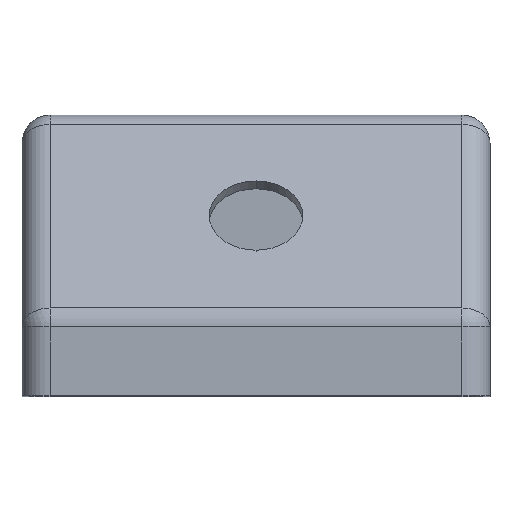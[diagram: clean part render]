
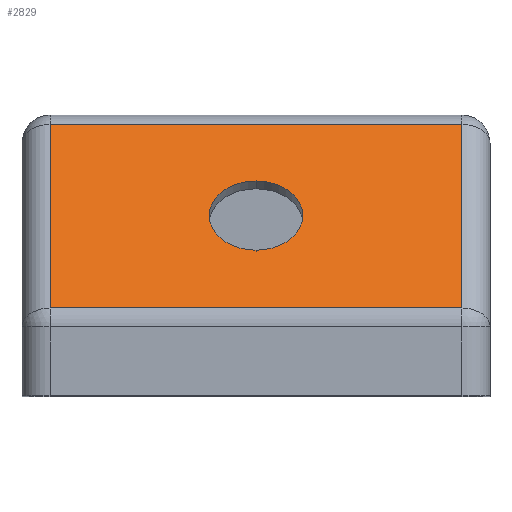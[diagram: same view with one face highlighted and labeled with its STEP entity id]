
A CAD part, top view. The second image highlights one B-rep face of the part: STEP entity #2829.
In plain terms, the highlighted planar face has unit normal (0, 0.672, 0.741).
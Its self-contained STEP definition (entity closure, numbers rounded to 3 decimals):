
#80 = ORIENTED_EDGE ( 'NONE', *, *, #1207, .T. ) ;
#95 = DIRECTION ( 'NONE',  ( -1., 0., 0. ) ) ;
#186 = CARTESIAN_POINT ( 'NONE',  ( 0., 45.907, 134.782 ) ) ;
#383 = DIRECTION ( 'NONE',  ( 0., -0.741, 0.672 ) ) ;
#405 = DIRECTION ( 'NONE',  ( 0., -0.741, 0.672 ) ) ;
#414 = CARTESIAN_POINT ( 'NONE',  ( -44., 17., 161. ) ) ;
#517 = VERTEX_POINT ( 'NONE', #1749 ) ;
#592 = VERTEX_POINT ( 'NONE', #2019 ) ;
#685 = EDGE_CURVE ( 'NONE', #2134, #1230, #1295, .T. ) ;
#946 = CARTESIAN_POINT ( 'NONE',  ( 44., 60., 122. ) ) ;
#963 = ORIENTED_EDGE ( 'NONE', *, *, #685, .F. ) ;
#1036 = CARTESIAN_POINT ( 'NONE',  ( -50., 18.715, 159.444 ) ) ;
#1129 = DIRECTION ( 'NONE',  ( 0., 0.672, 0.741 ) ) ;
#1130 = AXIS2_PLACEMENT_3D ( 'NONE', #1267, #2619, #1697 ) ;
#1177 = VECTOR ( 'NONE', #2375, 1000. ) ;
#1207 = EDGE_CURVE ( 'NONE', #2898, #517, #1403, .T. ) ;
#1230 = VERTEX_POINT ( 'NONE', #186 ) ;
#1232 = CARTESIAN_POINT ( 'NONE',  ( 44., 58.031, 123.786 ) ) ;
#1258 = LINE ( 'NONE', #1746, #2947 ) ;
#1267 = CARTESIAN_POINT ( 'NONE',  ( 0., 38.5, 141.5 ) ) ;
#1291 = EDGE_LOOP ( 'NONE', ( #80, #1774, #1507, #1940 ) ) ;
#1295 = CIRCLE ( 'NONE', #2069, 10. ) ;
#1403 = LINE ( 'NONE', #1036, #1550 ) ;
#1434 = AXIS2_PLACEMENT_3D ( 'NONE', #2684, #2489, #383 ) ;
#1457 = EDGE_LOOP ( 'NONE', ( #963, #2078 ) ) ;
#1507 = ORIENTED_EDGE ( 'NONE', *, *, #2758, .T. ) ;
#1550 = VECTOR ( 'NONE', #2645, 1000. ) ;
#1602 = DIRECTION ( 'NONE',  ( 0., -0.741, 0.672 ) ) ;
#1631 = CARTESIAN_POINT ( 'NONE',  ( -44., 18.715, 159.444 ) ) ;
#1639 = EDGE_CURVE ( 'NONE', #517, #2596, #2690, .T. ) ;
#1646 = EDGE_CURVE ( 'NONE', #1230, #2134, #2333, .T. ) ;
#1697 = DIRECTION ( 'NONE',  ( 0., -0.741, 0.672 ) ) ;
#1746 = CARTESIAN_POINT ( 'NONE',  ( -50., 58.031, 123.786 ) ) ;
#1749 = CARTESIAN_POINT ( 'NONE',  ( 44., 18.715, 159.444 ) ) ;
#1774 = ORIENTED_EDGE ( 'NONE', *, *, #1639, .T. ) ;
#1802 = FACE_BOUND ( 'NONE', #1457, .T. ) ;
#1940 = ORIENTED_EDGE ( 'NONE', *, *, #2828, .T. ) ;
#2019 = CARTESIAN_POINT ( 'NONE',  ( -44., 58.031, 123.786 ) ) ;
#2069 = AXIS2_PLACEMENT_3D ( 'NONE', #2738, #1129, #1602 ) ;
#2078 = ORIENTED_EDGE ( 'NONE', *, *, #1646, .F. ) ;
#2134 = VERTEX_POINT ( 'NONE', #2900 ) ;
#2333 = CIRCLE ( 'NONE', #1130, 10. ) ;
#2375 = DIRECTION ( 'NONE',  ( 0., 0.741, -0.672 ) ) ;
#2412 = FACE_OUTER_BOUND ( 'NONE', #1291, .T. ) ;
#2489 = DIRECTION ( 'NONE',  ( 0., 0.672, 0.741 ) ) ;
#2596 = VERTEX_POINT ( 'NONE', #1232 ) ;
#2619 = DIRECTION ( 'NONE',  ( 0., 0.672, 0.741 ) ) ;
#2623 = LINE ( 'NONE', #414, #2839 ) ;
#2645 = DIRECTION ( 'NONE',  ( 1., 0., 0. ) ) ;
#2684 = CARTESIAN_POINT ( 'NONE',  ( -50., 17., 161. ) ) ;
#2690 = LINE ( 'NONE', #946, #1177 ) ;
#2738 = CARTESIAN_POINT ( 'NONE',  ( 0., 38.5, 141.5 ) ) ;
#2758 = EDGE_CURVE ( 'NONE', #2596, #592, #1258, .T. ) ;
#2828 = EDGE_CURVE ( 'NONE', #592, #2898, #2623, .T. ) ;
#2829 = ADVANCED_FACE ( 'NONE', ( #2412, #1802 ), #2917, .T. ) ;
#2839 = VECTOR ( 'NONE', #405, 1000. ) ;
#2898 = VERTEX_POINT ( 'NONE', #1631 ) ;
#2900 = CARTESIAN_POINT ( 'NONE',  ( 0., 31.093, 148.218 ) ) ;
#2917 = PLANE ( 'NONE',  #1434 ) ;
#2947 = VECTOR ( 'NONE', #95, 1000. ) ;
